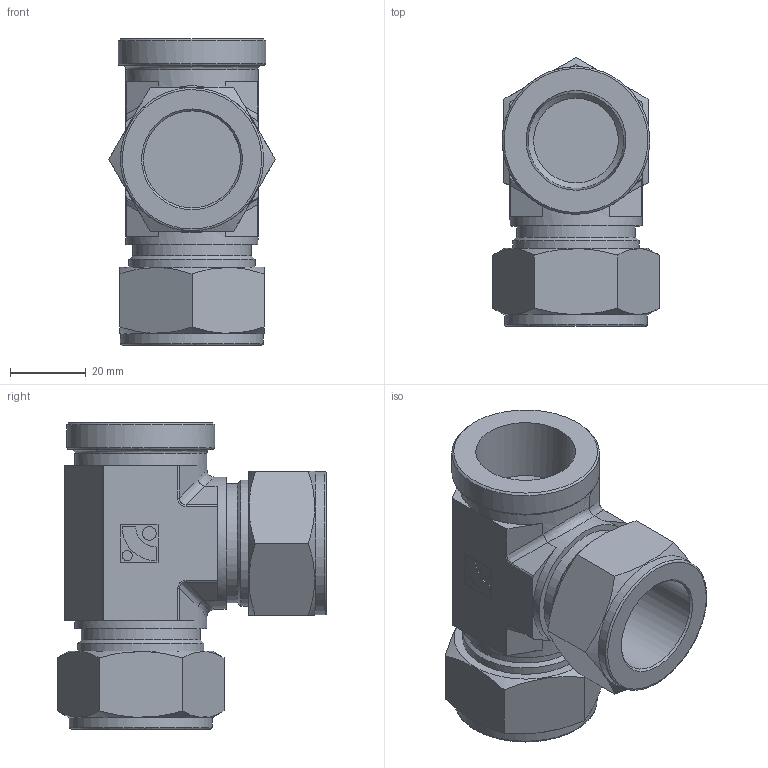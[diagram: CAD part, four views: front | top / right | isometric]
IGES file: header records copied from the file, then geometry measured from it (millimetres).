
Global section: file name: SFRT-16-12N; native system: Autodesk Inventor 2016; preprocessor: unknown; author: DESIGNPC2; date: 20151031.102613; units: millimetre
Bounding box: 43.99 x 71.06 x 80.86 mm (x, y, z)
Volume: 82332.7 mm3; surface area: 24409.9 mm2
Topology: 1 solids, 1 shells, 112 faces, 287 edges, 189 vertices
Faces by surface type: bspline 112
